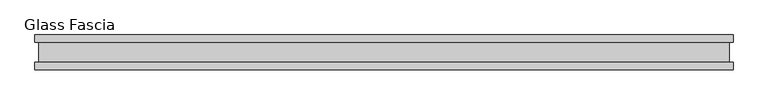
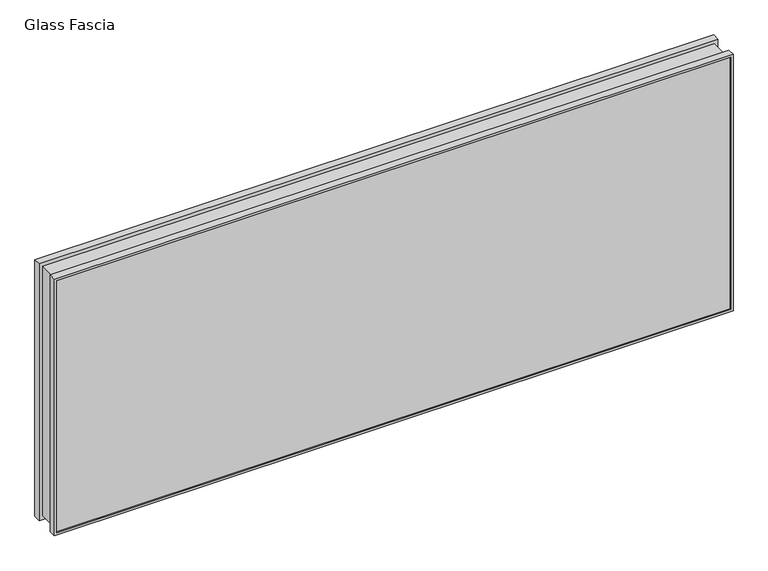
"""IFC4 building model written with IfcOpenShell, lengths in millimetres: proxy geometry, Panel-Fascia-Teknion-Altos-Glass : Glass Fascia."""

from ifc_helpers import new_model, si_unit, frame, origin, place, context, project, spatial, polyline, outline, extrude, faceted_brep, source, transform, mapped, element, save


def glass_fascia_dc85a8b2(model_context):
    return source(origin(), model_context, "Body", "SolidModel", [
        faceted_brep([(1005.8670757, 50.0558594, 807.593), (1005.8670757, 28.2698798, 807.593), (1005.8670757, 28.2698798, 3.175), (1005.8670757, 50.0558594, 3.175), (998.4318679, 47.1322551, 800.1577922), (998.4318679, 50.0558594, 800.1577922), (998.4318679, 50.0558594, 10.6102078), (998.4318679, 47.1322551, 10.6102078), (1003.7145495, 41.1791301, 805.4404737), (1003.7145495, 47.1322551, 805.4404737), (1003.7145495, 47.1322551, 5.3275263), (1003.7145495, 41.1791301, 5.3275263), (1003.7145495, -46.8808594, 805.4404737), (1003.7145495, -40.9277344, 805.4404737), (1003.7145495, -40.9277344, 5.3275263), (1003.7145495, -46.8808594, 5.3275263), (998.4318679, -50.0558594, 800.1577922), (998.4318679, -46.8808594, 800.1577922), (998.4318679, -46.8808594, 10.6102078), (998.4318679, -50.0558594, 10.6102078), (1005.8670757, -28.8801202, 807.593), (1005.8670757, -50.0558594, 807.593), (1005.8670757, -50.0558594, 3.175), (1005.8670757, -28.8801202, 3.175), (995.0152344, 28.2698798, 796.7411586), (995.0152344, -28.8801202, 796.7411586), (995.0152344, -28.8801202, 14.0268414), (995.0152344, 28.2698798, 14.0268414), (-1005.8670757, 28.2698798, 3.175), (-1005.8670757, 50.0558594, 3.175), (-998.4318679, 50.0558594, 10.6102078), (-998.4318679, 47.1322551, 10.6102078), (-1003.7145495, 47.1322551, 5.3275263), (-1003.7145495, 41.1791301, 5.3275263), (-1003.7145495, -40.9277344, 5.3275263), (-1003.7145495, -46.8808594, 5.3275263), (-998.4318679, -46.8808594, 10.6102078), (-998.4318679, -50.0558594, 10.6102078), (-1005.8670757, -50.0558594, 3.175), (-1005.8670757, -28.8801202, 3.175), (-995.0152344, -28.8801202, 14.0268414), (-995.0152344, 28.2698798, 14.0268414), (-1005.8670757, 28.2698798, 807.593), (-1005.8670757, 50.0558594, 807.593), (-998.4318679, 50.0558594, 800.1577922), (-998.4318679, 47.1322551, 800.1577922), (-1003.7145495, 47.1322551, 805.4404737), (-1003.7145495, 41.1791301, 805.4404737), (-1003.7145495, -40.9277344, 805.4404737), (-1003.7145495, -46.8808594, 805.4404737), (-998.4318679, -46.8808594, 800.1577922), (-998.4318679, -50.0558594, 800.1577922), (-1005.8670757, -50.0558594, 807.593), (-1005.8670757, -28.8801202, 807.593), (-995.0152344, -28.8801202, 796.7411586), (-995.0152344, 28.2698798, 796.7411586), (980.4041247, 41.1791301, 782.130049), (-980.4041247, 41.1791301, 782.130049), (-980.4041247, 41.1791301, 28.637951), (980.4041247, 41.1791301, 28.637951), (980.4041247, -40.9277344, 28.637951), (-980.4041247, -40.9277344, 28.637951), (-980.4041247, -40.9277344, 782.130049), (980.4041247, -40.9277344, 782.130049), (980.4041247, 4.7625, 782.130049), (980.4041247, 4.7625, 28.637951), (-980.4041247, 4.7625, 28.637951), (-980.4041247, 4.7625, 782.130049), (990.7228747, -4.7625, 792.448799), (990.7228747, 4.7625, 792.448799), (990.7228747, 4.7625, 18.319201), (990.7228747, -4.7625, 18.319201), (980.4041247, -4.7625, 782.130049), (980.4041247, -4.7625, 28.637951), (-990.7228747, 4.7625, 18.319201), (-990.7228747, -4.7625, 18.319201), (-980.4041247, -4.7625, 28.637951), (-990.7228747, 4.7625, 792.448799), (-990.7228747, -4.7625, 792.448799), (-980.4041247, -4.7625, 782.130049)], [[[0, 1, 2, 3]], [[4, 5, 6, 7]], [[8, 9, 10, 11]], [[12, 13, 14, 15]], [[16, 17, 18, 19]], [[20, 21, 22, 23]], [[24, 25, 26, 27]], [[3, 2, 28, 29]], [[7, 6, 30, 31]], [[11, 10, 32, 33]], [[15, 14, 34, 35]], [[19, 18, 36, 37]], [[23, 22, 38, 39]], [[27, 26, 40, 41]], [[29, 28, 42, 43]], [[31, 30, 44, 45]], [[33, 32, 46, 47]], [[35, 34, 48, 49]], [[37, 36, 50, 51]], [[39, 38, 52, 53]], [[41, 40, 54, 55]], [[43, 42, 1, 0]], [[3, 29, 43, 0], [5, 44, 30, 6]], [[45, 44, 5, 4]], [[9, 46, 32, 10], [7, 31, 45, 4]], [[47, 46, 9, 8]], [[11, 33, 47, 8], [56, 57, 58, 59]], [[13, 48, 34, 14], [60, 61, 62, 63]], [[49, 48, 13, 12]], [[15, 35, 49, 12], [17, 50, 36, 18]], [[51, 50, 17, 16]], [[21, 52, 38, 22], [19, 37, 51, 16]], [[53, 52, 21, 20]], [[23, 39, 53, 20], [25, 54, 40, 26]], [[55, 54, 25, 24]], [[1, 42, 28, 2], [27, 41, 55, 24]], [[64, 56, 59, 65]], [[65, 59, 58, 66]], [[66, 58, 57, 67]], [[67, 57, 56, 64]], [[68, 69, 70, 71]], [[63, 72, 73, 60]], [[71, 70, 74, 75]], [[60, 73, 76, 61]], [[75, 74, 77, 78]], [[61, 76, 79, 62]], [[69, 77, 74, 70], [65, 66, 67, 64]], [[78, 77, 69, 68]], [[62, 79, 72, 63]], [[71, 75, 78, 68], [72, 79, 76, 73]]]),
        extrude(outline(polyline([(1003.7145495, -40.9277344), (1003.7145495, -46.8808594), (-1003.7145495, -46.8808594), (-1003.7145495, -40.9277344), (1003.7145495, -40.9277344)])), frame((0.0, 0.0, 5.3275263), z_axis=(0.0, 0.0, 1.0), x_axis=(1.0, 0.0, 0.0)), (0.0, 0.0, 1.0), 799.618928),
        extrude(outline(polyline([(1003.7145495, 41.1791301), (-1003.7145495, 41.1791301), (-1003.7145495, 47.1322551), (1003.7145495, 47.1322551), (1003.7145495, 41.1791301)])), frame((0.0, 0.0, 5.3275263), z_axis=(0.0, 0.0, 1.0), x_axis=(1.0, 0.0, 0.0)), (0.0, 0.0, 1.0), 799.618928),
    ])


if __name__ == "__main__":
    model = new_model("IFC4")
    model_context = context("Model", 3, world=origin())
    ifc_project = project(units=[si_unit("LENGTHUNIT", "METRE", prefix="MILLI")], contexts=[model_context])
    site = spatial("IfcSite", under=ifc_project)
    building = spatial("IfcBuilding", under=site)
    placement = place(None, origin())
    glass_fascia_shape = glass_fascia_dc85a8b2(model_context)
    element("IfcBuildingElementProxy", 1, Name="Panel-Fascia-Teknion-Altos-Glass : Glass Fascia", ObjectType="Panel-Fascia-Teknion-Altos-Glass : Glass Fascia", at=placement, inside=building, context=model_context, shape_type="MappedRepresentation", body=[
        mapped(glass_fascia_shape, transform((0.0, 0.0, 0.0), x_axis=(1.0, 0.0, 0.0), y_axis=(0.0, 1.0, 0.0), z_axis=(0.0, 0.0, 1.0))),
    ])
    save(model, "model.ifc")
